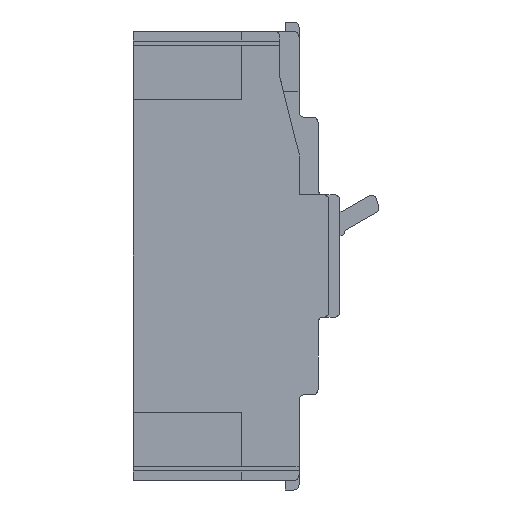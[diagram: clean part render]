
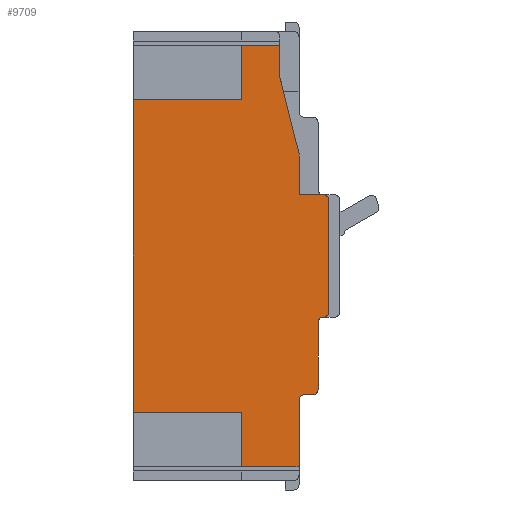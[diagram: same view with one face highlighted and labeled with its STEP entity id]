
A CAD part, left-side view. The second image highlights one B-rep face of the part: STEP entity #9709.
In plain terms, the highlighted planar face has unit normal (-1, 0, 0).
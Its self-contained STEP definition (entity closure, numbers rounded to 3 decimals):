
#44=CARTESIAN_POINT('',(-52.5,-39.5,-20.5));
#45=DIRECTION('',(-1.,0.,0.));
#46=DIRECTION('',(0.,0.,-1.));
#47=AXIS2_PLACEMENT_3D('',#44,#45,#46);
#49=DIRECTION('',(0.,0.,-1.));
#50=VECTOR('',#49,24.5);
#51=CARTESIAN_POINT('',(-52.5,-37.5,-24.5));
#52=LINE('',#51,#50);
#53=CARTESIAN_POINT('',(-52.5,-35.5,-49.));
#54=DIRECTION('',(-1.,0.,0.));
#55=DIRECTION('',(0.,0.,-1.));
#56=AXIS2_PLACEMENT_3D('',#53,#54,#55);
#58=DIRECTION('',(0.,1.,0.));
#59=VECTOR('',#58,3.);
#60=CARTESIAN_POINT('',(-52.5,-35.5,-51.));
#61=LINE('',#60,#59);
#62=DIRECTION('',(0.,0.,-1.));
#63=VECTOR('',#62,24.5);
#64=CARTESIAN_POINT('',(-52.5,-30.5,-53.));
#65=LINE('',#64,#63);
#66=DIRECTION('',(0.,-1.,0.));
#67=VECTOR('',#66,21.);
#68=CARTESIAN_POINT('',(-52.5,-9.5,-77.5));
#69=LINE('',#68,#67);
#70=DIRECTION('',(0.,0.,1.));
#71=VECTOR('',#70,20.);
#72=CARTESIAN_POINT('',(-52.5,-9.5,-77.5));
#73=LINE('',#72,#71);
#74=DIRECTION('',(0.,-1.,0.));
#75=VECTOR('',#74,40.);
#76=CARTESIAN_POINT('',(-52.5,30.5,-57.5));
#77=LINE('',#76,#75);
#78=DIRECTION('',(0.,0.,1.));
#79=VECTOR('',#78,115.);
#80=CARTESIAN_POINT('',(-52.5,30.5,-57.5));
#81=LINE('',#80,#79);
#82=DIRECTION('',(0.,-1.,0.));
#83=VECTOR('',#82,40.);
#84=CARTESIAN_POINT('',(-52.5,30.5,57.5));
#85=LINE('',#84,#83);
#86=DIRECTION('',(0.,0.,-1.));
#87=VECTOR('',#86,20.);
#88=CARTESIAN_POINT('',(-52.5,-9.5,77.5));
#89=LINE('',#88,#87);
#90=DIRECTION('',(0.,-1.,0.));
#91=VECTOR('',#90,14.);
#92=CARTESIAN_POINT('',(-52.5,-9.5,77.5));
#93=LINE('',#92,#91);
#94=DIRECTION('',(0.,0.,-1.));
#95=VECTOR('',#94,12.);
#96=CARTESIAN_POINT('',(-52.5,-23.5,77.5));
#97=LINE('',#96,#95);
#98=DIRECTION('',(0.,0.243,0.97));
#99=VECTOR('',#98,28.862);
#100=CARTESIAN_POINT('',(-52.5,-30.5,37.5));
#101=LINE('',#100,#99);
#102=DIRECTION('',(0.,0.,1.));
#103=VECTOR('',#102,15.);
#104=CARTESIAN_POINT('',(-52.5,-30.5,22.5));
#105=LINE('',#104,#103);
#106=CARTESIAN_POINT('',(-52.5,-39.5,20.5));
#107=DIRECTION('',(-1.,0.,0.));
#108=DIRECTION('',(0.,-1.,0.));
#109=AXIS2_PLACEMENT_3D('',#106,#107,#108);
#111=DIRECTION('',(0.,0.,-1.));
#112=VECTOR('',#111,41.);
#113=CARTESIAN_POINT('',(-52.5,-41.5,20.5));
#114=LINE('',#113,#112);
#2234=DIRECTION('',(0.,1.,0.));
#2235=VECTOR('',#2234,9.);
#2236=CARTESIAN_POINT('',(-52.5,-39.5,22.5));
#2237=LINE('',#2236,#2235);
#6381=CARTESIAN_POINT('',(-52.5,-39.5,-24.5));
#6382=DIRECTION('',(1.,0.,0.));
#6383=DIRECTION('',(0.,1.,0.));
#6384=AXIS2_PLACEMENT_3D('',#6381,#6382,#6383);
#6634=CARTESIAN_POINT('',(-52.5,-32.5,-53.));
#6635=DIRECTION('',(1.,0.,0.));
#6636=DIRECTION('',(0.,1.,0.));
#6637=AXIS2_PLACEMENT_3D('',#6634,#6635,#6636);
#8164=CARTESIAN_POINT('',(-52.5,-30.5,-77.5));
#8165=VERTEX_POINT('',#8164);
#8526=CARTESIAN_POINT('',(-52.5,-30.5,22.5));
#8527=VERTEX_POINT('',#8526);
#8528=CARTESIAN_POINT('',(-52.5,-30.5,37.5));
#8529=VERTEX_POINT('',#8528);
#8530=CARTESIAN_POINT('',(-52.5,-23.5,65.5));
#8532=VERTEX_POINT('',#8530);
#8534=CARTESIAN_POINT('',(-52.5,-23.5,77.5));
#8535=VERTEX_POINT('',#8534);
#8750=CARTESIAN_POINT('',(-52.5,-9.5,-57.5));
#8751=VERTEX_POINT('',#8750);
#8752=CARTESIAN_POINT('',(-52.5,-9.5,57.5));
#8753=VERTEX_POINT('',#8752);
#8754=CARTESIAN_POINT('',(-52.5,30.5,-57.5));
#8755=VERTEX_POINT('',#8754);
#8760=CARTESIAN_POINT('',(-52.5,-9.5,-77.5));
#8761=VERTEX_POINT('',#8760);
#8766=CARTESIAN_POINT('',(-52.5,-9.5,77.5));
#8767=VERTEX_POINT('',#8766);
#8768=CARTESIAN_POINT('',(-52.5,30.5,57.5));
#8769=VERTEX_POINT('',#8768);
#8898=CARTESIAN_POINT('',(-52.5,-37.5,-24.5));
#8900=VERTEX_POINT('',#8898);
#9014=CARTESIAN_POINT('',(-52.5,-30.5,-53.));
#9016=VERTEX_POINT('',#9014);
#9018=CARTESIAN_POINT('',(-52.5,-32.5,-51.));
#9020=VERTEX_POINT('',#9018);
#9030=CARTESIAN_POINT('',(-52.5,-39.5,-22.5));
#9031=CARTESIAN_POINT('',(-52.5,-41.5,-20.5));
#9032=VERTEX_POINT('',#9030);
#9033=VERTEX_POINT('',#9031);
#9046=CARTESIAN_POINT('',(-52.5,-41.5,20.5));
#9048=VERTEX_POINT('',#9046);
#9050=CARTESIAN_POINT('',(-52.5,-39.5,22.5));
#9051=VERTEX_POINT('',#9050);
#9074=CARTESIAN_POINT('',(-52.5,-35.5,-51.));
#9075=CARTESIAN_POINT('',(-52.5,-37.5,-49.));
#9076=VERTEX_POINT('',#9074);
#9077=VERTEX_POINT('',#9075);
#9662=CARTESIAN_POINT('',(-52.5,0.,0.));
#9663=DIRECTION('',(1.,0.,0.));
#9664=DIRECTION('',(0.,-1.,0.));
#9665=AXIS2_PLACEMENT_3D('',#9662,#9663,#9664);
#9666=PLANE('',#9665);
#9668=ORIENTED_EDGE('',*,*,#9667,.F.);
#9670=ORIENTED_EDGE('',*,*,#9669,.F.);
#9672=ORIENTED_EDGE('',*,*,#9671,.T.);
#9674=ORIENTED_EDGE('',*,*,#9673,.F.);
#9676=ORIENTED_EDGE('',*,*,#9675,.T.);
#9678=ORIENTED_EDGE('',*,*,#9677,.F.);
#9680=ORIENTED_EDGE('',*,*,#9679,.T.);
#9682=ORIENTED_EDGE('',*,*,#9681,.F.);
#9684=ORIENTED_EDGE('',*,*,#9683,.T.);
#9686=ORIENTED_EDGE('',*,*,#9685,.F.);
#9688=ORIENTED_EDGE('',*,*,#9687,.T.);
#9690=ORIENTED_EDGE('',*,*,#9689,.T.);
#9692=ORIENTED_EDGE('',*,*,#9691,.F.);
#9694=ORIENTED_EDGE('',*,*,#9693,.T.);
#9696=ORIENTED_EDGE('',*,*,#9695,.T.);
#9698=ORIENTED_EDGE('',*,*,#9697,.F.);
#9700=ORIENTED_EDGE('',*,*,#9699,.F.);
#9702=ORIENTED_EDGE('',*,*,#9701,.F.);
#9704=ORIENTED_EDGE('',*,*,#9703,.F.);
#9706=ORIENTED_EDGE('',*,*,#9705,.T.);
#9707=EDGE_LOOP('',(#9668,#9670,#9672,#9674,#9676,#9678,#9680,#9682,#9684,#9686,
#9688,#9690,#9692,#9694,#9696,#9698,#9700,#9702,#9704,#9706));
#9708=FACE_OUTER_BOUND('',#9707,.F.);
#48=CIRCLE('',#47,2.);
#57=CIRCLE('',#56,2.);
#110=CIRCLE('',#109,2.);
#6385=CIRCLE('',#6384,2.);
#6638=CIRCLE('',#6637,2.);
#9667=EDGE_CURVE('',#9032,#9033,#48,.T.);
#9669=EDGE_CURVE('',#8900,#9032,#6385,.T.);
#9671=EDGE_CURVE('',#8900,#9077,#52,.T.);
#9673=EDGE_CURVE('',#9076,#9077,#57,.T.);
#9675=EDGE_CURVE('',#9076,#9020,#61,.T.);
#9677=EDGE_CURVE('',#9016,#9020,#6638,.T.);
#9679=EDGE_CURVE('',#9016,#8165,#65,.T.);
#9681=EDGE_CURVE('',#8761,#8165,#69,.T.);
#9683=EDGE_CURVE('',#8761,#8751,#73,.T.);
#9685=EDGE_CURVE('',#8755,#8751,#77,.T.);
#9687=EDGE_CURVE('',#8755,#8769,#81,.T.);
#9689=EDGE_CURVE('',#8769,#8753,#85,.T.);
#9691=EDGE_CURVE('',#8767,#8753,#89,.T.);
#9693=EDGE_CURVE('',#8767,#8535,#93,.T.);
#9695=EDGE_CURVE('',#8535,#8532,#97,.T.);
#9697=EDGE_CURVE('',#8529,#8532,#101,.T.);
#9699=EDGE_CURVE('',#8527,#8529,#105,.T.);
#9701=EDGE_CURVE('',#9051,#8527,#2237,.T.);
#9703=EDGE_CURVE('',#9048,#9051,#110,.T.);
#9705=EDGE_CURVE('',#9048,#9033,#114,.T.);
#9709=ADVANCED_FACE('',(#9708),#9666,.F.);
